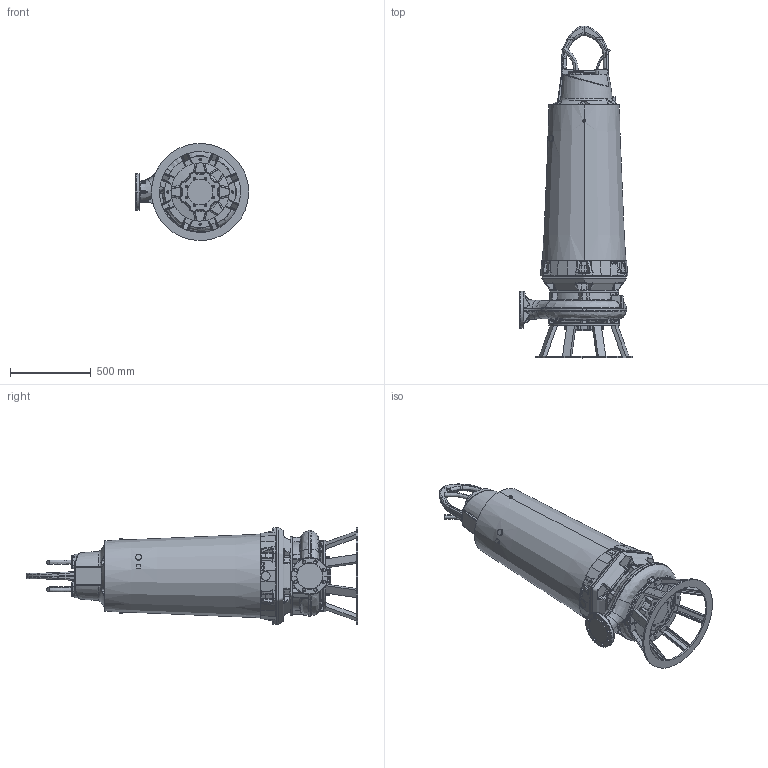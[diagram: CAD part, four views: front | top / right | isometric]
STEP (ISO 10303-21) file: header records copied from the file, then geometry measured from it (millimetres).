
FILE_DESCRIPTION (( 'STEP AP214' ), '1' );
FILE_NAME ('PE5_XFP100J-CH1_WET T_B_NG2.STEP', '2017-02-23T06:10:26', ( '' ), ( '' ), 'SwSTEP 2.0', 'SolidWorks 2017', '' );
FILE_SCHEMA (( 'AUTOMOTIVE_DESIGN' ));
Length unit declared in the file: millimetre
Products named in the file (1): PE5_XFP100J-CH1_WET T_B_NG2
Bounding box: 699.71 x 2049.47 x 599.43 mm (x, y, z)
Volume: 266732339.1 mm3; surface area: 3712464.2 mm2
Topology: 3 solids, 3 shells, 2361 faces, 5919 edges, 3547 vertices
Faces by surface type: bspline 801, cylinder 515, plane 503, cone 241, torus 231, sphere 70
Entity records: 167795 total; most frequent: CARTESIAN_POINT 92433, ORIENTED_EDGE 11718, DIRECTION 8648, EDGE_CURVE 5859, VERTEX_POINT 3547, AXIS2_PLACEMENT_3D 3545, EDGE_LOOP 2452, UNCERTAINTY_MEASURE_WITH_UNIT 2366
